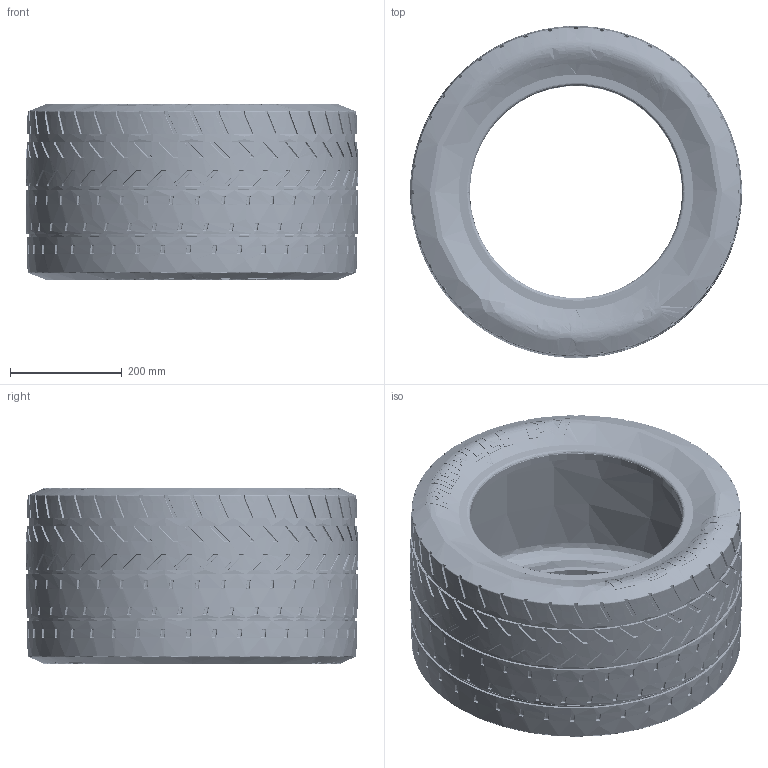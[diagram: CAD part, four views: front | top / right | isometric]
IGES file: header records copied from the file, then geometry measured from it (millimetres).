
Start section: SolidWorks IGES file using analytic representation for surfaces
Global section: file name: D:\Ïðîåêòè è ÷àñòè\Fiat 131 abarth gr4 cromodora wheels\Fiat 131 abarth gr4 cromodora wheels rear tyre 305-35R15.IGS; native system: SolidWorks 2019; preprocessor: SolidWorks 2019; author: GOD; date: 250308.220012; units: millimetre
Bounding box: 595.4 x 595.4 x 317 mm (x, y, z)
Surface area: 1780596.8 mm2 (no closed solid volume)
Topology: 0 solids, 0 shells, 5652 faces, 60939 edges, 60499 vertices
Faces by surface type: bspline 3974, revolution 1678
